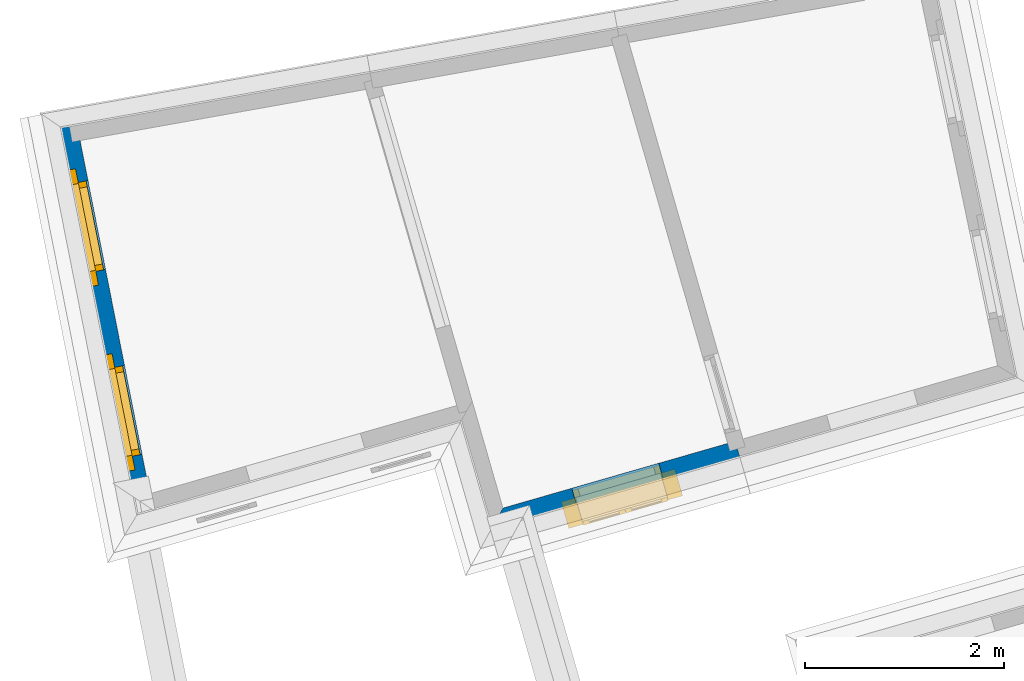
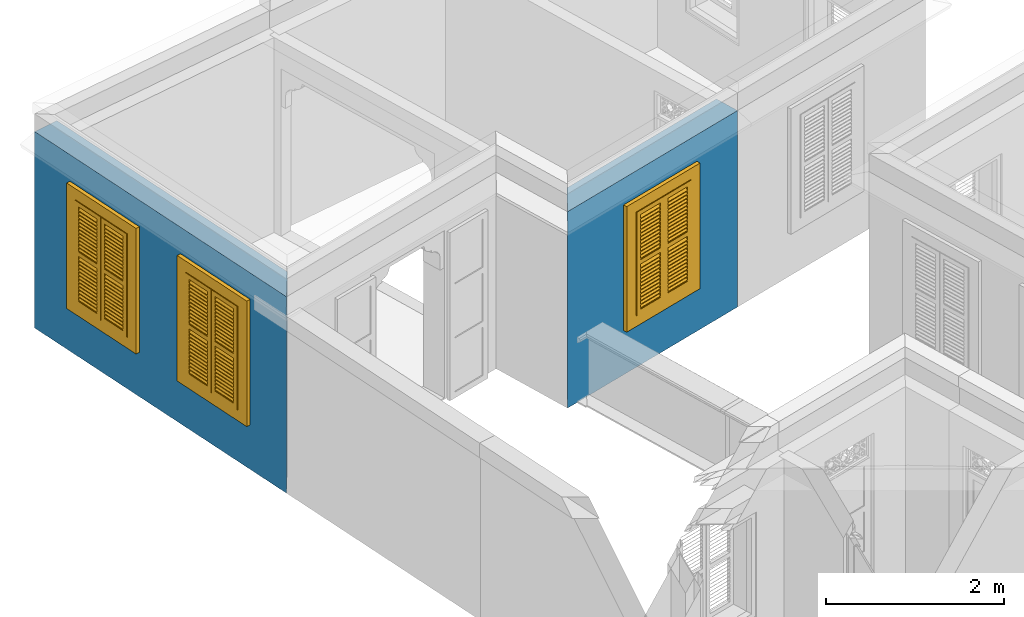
# One storey, part 15 of 22: 3 windows, 2 walls, 3 openings.
"""IFC4 building model written with IfcOpenShell, lengths in metres."""

from ifc_helpers import new_model, si_unit, frame, origin, origin_with_axes, place, context, subcontext, project, spatial, polyline, outline, extrude, faceted_brep, source, transform, mapped, material, layer, layer_set, layer_usage, type_object, type_shapes, element, fill, save


model = new_model("IFC4")

# Units and contexts
model_context = context("Model", 3, world=origin_with_axes())
body_context = subcontext(model_context, "Body", "Model", "MODEL_VIEW")
ifc_project = project(units=[si_unit("PLANEANGLEUNIT", "RADIAN"), si_unit("MASSUNIT", "GRAM", prefix="KILO"), si_unit("FORCEUNIT", "NEWTON", prefix="KILO"), si_unit("LENGTHUNIT", "METRE"), si_unit("AREAUNIT", "SQUARE_METRE"), si_unit("VOLUMEUNIT", "CUBIC_METRE")], contexts=[model_context, model_context])

# Site, building, storey
site_placement = place(None, origin_with_axes())
site = spatial("IfcSite", under=ifc_project, at=site_placement, Name="Site plot-9", CompositionType="ELEMENT")
building_placement = place(None, origin_with_axes())
building = spatial("IfcBuilding", under=site, at=building_placement, Name="Building plot-9", CompositionType="ELEMENT")
storey_placement = place(None, frame((0.0, 0.0, 2.85), z_axis=(0.0, 0.0, 1.0), x_axis=(1.0, 0.0, 0.0)))
storey = spatial("IfcBuildingStorey", under=building, at=storey_placement, Name="plot-9 1", CompositionType="ELEMENT", Elevation=2.85)

# Wall, openings, windows
ifc_material = material(Name="Masonry")
ifc_layer = layer(ifc_material, 0.33, ventilated=False)
ifc_layer_set = layer_set([ifc_layer], Name="exterior_0.08_0.25")
ifc_layer_usage = layer_usage(ifc_layer_set, "AXIS2", "POSITIVE", -0.25)
wall_type = type_object("IfcWallType", Name="exterior_0.08_0.25", PredefinedType="SOLIDWALL", material=ifc_layer_set)
wall_1_placement = place(storey_placement, frame((-23.0511228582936, 7.53920584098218, 0.0), z_axis=(0.0, 0.0, 1.0), x_axis=(0.1936752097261, -0.981065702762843, 0.0)))
wall_1 = element("IfcWall", 1, at=wall_1_placement, inside=storey, type_object=wall_type, material=ifc_layer_usage, Name="exterior", context=body_context, shape_type="SweptSolid", body=[
    extrude(outline(polyline([(-0.25, 0.0800000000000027), (-0.250000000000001, -0.25), (4.05798075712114, -0.250000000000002), (3.69867391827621, 0.080000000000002), (-0.25, 0.0800000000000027)])), origin_with_axes(), (0.0, 0.0, 1.0), 2.7),
])
opening_1_placement = place(wall_1_placement, frame((0.49144465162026, 0.0, 0.75)))
opening_1 = element("IfcOpeningElement", 2, at=opening_1_placement, cuts=wall_1, Name="My Opening", ObjectType="Opening", context=body_context, shape_type="SweptSolid", body=[
    extrude(outline(polyline([(0.0, -0.27), (0.91, -0.270000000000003), (0.91, 1.1), (5.55111512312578e-17, 1.1), (0.0, -0.27)])), origin_with_axes(), (0.0, 0.0, 1.0), 1.445),
])
opening_2_placement = place(wall_1_placement, frame((2.38433395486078, 0.0, 0.75)))
opening_2 = element("IfcOpeningElement", 3, at=opening_2_placement, cuts=wall_1, Name="My Opening", ObjectType="Opening", context=body_context, shape_type="SweptSolid", body=[
    extrude(outline(polyline([(0.0, -0.27), (0.909999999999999, -0.270000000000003), (0.91, 1.1), (0.0, 1.1), (0.0, -0.27)])), origin_with_axes(), (0.0, 0.0, 1.0), 1.445),
])
window_type = type_object("IfcWindowType", Name="shuttered_shorter", PartitioningType="DOUBLE_PANEL_HORIZONTAL", PredefinedType="NOTDEFINED")
shared_shape = source(origin(), body_context, "Body", "Brep", [
    faceted_brep([(0.393, 0.0, 0.622), (0.074, 0.0, 0.622), (0.074, 0.0, 0.632), (0.393, 0.0, 0.632), (0.074, -0.04, 0.592), (0.393, -0.04, 0.592), (0.393, -0.04, 0.582), (0.074, -0.04, 0.582), (0.517, 0.0, 0.682), (0.836, 0.0, 0.682), (0.836, 0.0, 0.672), (0.517, 0.0, 0.672), (0.517, -0.04, 0.642), (0.836, -0.04, 0.642), (0.836, -0.04, 0.632), (0.517, -0.04, 0.632), (0.517, 0.0, 0.632), (0.836, 0.0, 0.632), (0.836, 0.0, 0.622), (0.517, 0.0, 0.622), (0.517, -0.04, 0.592), (0.836, -0.04, 0.592), (0.836, -0.04, 0.582), (0.517, -0.04, 0.582), (0.517, 0.0, 0.232), (0.836, 0.0, 0.232), (0.836, 0.0, 0.222), (0.517, 0.0, 0.222), (0.517, -0.04, 0.192), (0.836, -0.04, 0.192), (0.836, -0.04, 0.182), (0.517, -0.04, 0.182), (0.517, 0.0, 0.532), (0.836, 0.0, 0.532), (0.836, 0.0, 0.522), (0.517, 0.0, 0.522), (0.517, -0.04, 0.492), (0.836, -0.04, 0.492), (0.836, -0.04, 0.482), (0.517, -0.04, 0.482), (0.517, 0.0, 0.482), (0.836, 0.0, 0.482), (0.836, 0.0, 0.472), (0.517, 0.0, 0.472), (0.517, -0.04, 0.442), (0.836, -0.04, 0.442), (0.836, -0.04, 0.432), (0.517, -0.04, 0.432), (0.517, 0.0, 0.582), (0.836, 0.0, 0.582), (0.836, 0.0, 0.572), (0.517, 0.0, 0.572), (0.517, -0.04, 0.542), (0.836, -0.04, 0.542), (0.836, -0.04, 0.532), (0.517, -0.04, 0.532), (0.517, 0.0, 0.182), (0.836, 0.0, 0.182), (0.836, 0.0, 0.172), (0.517, 0.0, 0.172), (0.517, -0.04, 0.142), (0.836, -0.04, 0.142), (0.836, -0.04, 0.132), (0.517, -0.04, 0.132), (0.517, 0.0, 0.382), (0.836, 0.0, 0.382), (0.836, 0.0, 0.372), (0.517, 0.0, 0.372), (0.517, -0.04, 0.342), (0.836, -0.04, 0.342), (0.836, -0.04, 0.332), (0.517, -0.04, 0.332), (0.517, 0.0, 0.432), (0.836, 0.0, 0.432), (0.836, 0.0, 0.422), (0.517, 0.0, 0.422), (0.517, -0.04, 0.392), (0.836, -0.04, 0.392), (0.836, -0.04, 0.382), (0.517, -0.04, 0.382), (0.517, 0.0, 0.132), (0.836, 0.0, 0.132), (0.836, 0.0, 0.122), (0.517, 0.0, 0.122), (0.517, -0.04, 0.092), (0.836, -0.04, 0.092), (0.836, -0.04, 0.082), (0.517, -0.04, 0.082), (0.517, 0.0, 0.282), (0.836, 0.0, 0.282), (0.836, 0.0, 0.272), (0.517, 0.0, 0.272), (0.517, -0.04, 0.242), (0.836, -0.04, 0.242), (0.836, -0.04, 0.232), (0.517, -0.04, 0.232), (0.517, 0.0, 0.332), (0.836, 0.0, 0.332), (0.836, 0.0, 0.322), (0.517, 0.0, 0.322), (0.517, -0.04, 0.292), (0.836, -0.04, 0.292), (0.836, -0.04, 0.282), (0.517, -0.04, 0.282), (0.517, 0.0, 1.362667), (0.836, 0.0, 1.362667), (0.836, 0.0, 1.352667), (0.517, 0.0, 1.352667), (0.517, -0.04, 1.322667), (0.836, -0.04, 1.322667), (0.836, -0.04, 1.312667), (0.517, -0.04, 1.312667), (0.517, 0.0, 1.312667), (0.836, 0.0, 1.312667), (0.836, 0.0, 1.302667), (0.517, 0.0, 1.302667), (0.517, -0.04, 1.272667), (0.836, -0.04, 1.272667), (0.836, -0.04, 1.262667), (0.517, -0.04, 1.262667), (0.517, 0.0, 0.912667), (0.836, 0.0, 0.912667), (0.836, 0.0, 0.902667), (0.517, 0.0, 0.902667), (0.517, -0.04, 0.872667), (0.836, -0.04, 0.872667), (0.836, -0.04, 0.862667), (0.517, -0.04, 0.862667), (0.517, 0.0, 1.212667), (0.836, 0.0, 1.212667), (0.836, 0.0, 1.202667), (0.517, 0.0, 1.202667), (0.517, -0.04, 1.172667), (0.836, -0.04, 1.172667), (0.836, -0.04, 1.162667), (0.517, -0.04, 1.162667), (0.517, 0.0, 1.162667), (0.836, 0.0, 1.162667), (0.836, 0.0, 1.152667), (0.517, 0.0, 1.152667), (0.517, -0.04, 1.122667), (0.836, -0.04, 1.122667), (0.836, -0.04, 1.112667), (0.517, -0.04, 1.112667), (0.517, 0.0, 1.262667), (0.836, 0.0, 1.262667), (0.836, 0.0, 1.252667), (0.517, 0.0, 1.252667), (0.517, -0.04, 1.222667), (0.836, -0.04, 1.222667), (0.836, -0.04, 1.212667), (0.517, -0.04, 1.212667), (0.517, 0.0, 0.862667), (0.836, 0.0, 0.862667), (0.836, 0.0, 0.852667), (0.517, 0.0, 0.852667), (0.517, -0.04, 0.822667), (0.836, -0.04, 0.822667), (0.836, -0.04, 0.812667), (0.517, -0.04, 0.812667), (0.517, 0.0, 1.062667), (0.836, 0.0, 1.062667), (0.836, 0.0, 1.052667), (0.517, 0.0, 1.052667), (0.517, -0.04, 1.022667), (0.836, -0.04, 1.022667), (0.836, -0.04, 1.012667), (0.517, -0.04, 1.012667), (0.517, 0.0, 1.112667), (0.836, 0.0, 1.112667), (0.836, 0.0, 1.102667), (0.517, 0.0, 1.102667), (0.517, -0.04, 1.072667), (0.836, -0.04, 1.072667), (0.836, -0.04, 1.062667), (0.517, -0.04, 1.062667), (0.517, 0.0, 0.812667), (0.836, 0.0, 0.812667), (0.836, 0.0, 0.802667), (0.517, 0.0, 0.802667), (0.517, -0.04, 0.772667), (0.836, -0.04, 0.772667), (0.836, -0.04, 0.762667), (0.517, -0.04, 0.762667), (0.517, 0.0, 0.962667), (0.836, 0.0, 0.962667), (0.836, 0.0, 0.952667), (0.517, 0.0, 0.952667), (0.517, -0.04, 0.922667), (0.836, -0.04, 0.922667), (0.836, -0.04, 0.912667), (0.517, -0.04, 0.912667), (0.517, 0.0, 1.012667), (0.836, 0.0, 1.012667), (0.836, 0.0, 1.002667), (0.517, 0.0, 1.002667), (0.517, -0.04, 0.972667), (0.836, -0.04, 0.972667), (0.836, -0.04, 0.962667), (0.517, -0.04, 0.962667), (0.074, 0.0, 0.682), (0.393, 0.0, 0.682), (0.393, 0.0, 0.672), (0.074, 0.0, 0.672), (0.074, -0.04, 0.642), (0.393, -0.04, 0.642), (0.393, -0.04, 0.632), (0.074, -0.04, 0.632), (0.074, 0.0, 0.232), (0.393, 0.0, 0.232), (0.393, 0.0, 0.222), (0.074, 0.0, 0.222), (0.074, -0.04, 0.192), (0.393, -0.04, 0.192), (0.393, -0.04, 0.182), (0.074, -0.04, 0.182), (0.074, 0.0, 0.532), (0.393, 0.0, 0.532), (0.393, 0.0, 0.522), (0.074, 0.0, 0.522), (0.074, -0.04, 0.492), (0.393, -0.04, 0.492), (0.393, -0.04, 0.482), (0.074, -0.04, 0.482), (0.074, 0.0, 0.482), (0.393, 0.0, 0.482), (0.393, 0.0, 0.472), (0.074, 0.0, 0.472), (0.074, -0.04, 0.442), (0.393, -0.04, 0.442), (0.393, -0.04, 0.432), (0.074, -0.04, 0.432), (0.074, 0.0, 0.582), (0.393, 0.0, 0.582), (0.393, 0.0, 0.572), (0.074, 0.0, 0.572), (0.074, -0.04, 0.542), (0.393, -0.04, 0.542), (0.393, -0.04, 0.532), (0.074, -0.04, 0.532), (0.074, 0.0, 0.182), (0.393, 0.0, 0.182), (0.393, 0.0, 0.172), (0.074, 0.0, 0.172), (0.074, -0.04, 0.142), (0.393, -0.04, 0.142), (0.393, -0.04, 0.132), (0.074, -0.04, 0.132), (0.074, 0.0, 0.382), (0.393, 0.0, 0.382), (0.393, 0.0, 0.372), (0.074, 0.0, 0.372), (0.074, -0.04, 0.342), (0.393, -0.04, 0.342), (0.393, -0.04, 0.332), (0.074, -0.04, 0.332), (0.074, 0.0, 0.432), (0.393, 0.0, 0.432), (0.393, 0.0, 0.422), (0.074, 0.0, 0.422), (0.074, -0.04, 0.392), (0.393, -0.04, 0.392), (0.393, -0.04, 0.382), (0.074, -0.04, 0.382), (0.074, 0.0, 0.132), (0.393, 0.0, 0.132), (0.393, 0.0, 0.122), (0.074, 0.0, 0.122), (0.074, -0.04, 0.092), (0.393, -0.04, 0.092), (0.393, -0.04, 0.082), (0.074, -0.04, 0.082), (0.074, 0.0, 0.282), (0.393, 0.0, 0.282), (0.393, 0.0, 0.272), (0.074, 0.0, 0.272), (0.074, -0.04, 0.242), (0.393, -0.04, 0.242), (0.393, -0.04, 0.232), (0.074, -0.04, 0.232), (0.074, 0.0, 0.332), (0.393, 0.0, 0.332), (0.393, 0.0, 0.322), (0.074, 0.0, 0.322), (0.074, -0.04, 0.292), (0.393, -0.04, 0.292), (0.393, -0.04, 0.282), (0.074, -0.04, 0.282), (0.074, 0.0, 1.362667), (0.393, 0.0, 1.362667), (0.393, 0.0, 1.352667), (0.074, 0.0, 1.352667), (0.074, -0.04, 1.322667), (0.393, -0.04, 1.322667), (0.393, -0.04, 1.312667), (0.074, -0.04, 1.312667), (0.074, 0.0, 1.312667), (0.393, 0.0, 1.312667), (0.393, 0.0, 1.302667), (0.074, 0.0, 1.302667), (0.074, -0.04, 1.272667), (0.393, -0.04, 1.272667), (0.393, -0.04, 1.262667), (0.074, -0.04, 1.262667), (0.074, 0.0, 0.912667), (0.393, 0.0, 0.912667), (0.393, 0.0, 0.902667), (0.074, 0.0, 0.902667), (0.074, -0.04, 0.872667), (0.393, -0.04, 0.872667), (0.393, -0.04, 0.862667), (0.074, -0.04, 0.862667), (0.074, 0.0, 1.212667), (0.393, 0.0, 1.212667), (0.393, 0.0, 1.202667), (0.074, 0.0, 1.202667), (0.074, -0.04, 1.172667), (0.393, -0.04, 1.172667), (0.393, -0.04, 1.162667), (0.074, -0.04, 1.162667), (0.074, 0.0, 1.162667), (0.393, 0.0, 1.162667), (0.393, 0.0, 1.152667), (0.074, 0.0, 1.152667), (0.074, -0.04, 1.122667), (0.393, -0.04, 1.122667), (0.393, -0.04, 1.112667), (0.074, -0.04, 1.112667), (0.074, 0.0, 1.262667), (0.393, 0.0, 1.262667), (0.393, 0.0, 1.252667), (0.074, 0.0, 1.252667), (0.074, -0.04, 1.222667), (0.393, -0.04, 1.222667), (0.393, -0.04, 1.212667), (0.074, -0.04, 1.212667), (0.074, 0.0, 0.862667), (0.393, 0.0, 0.862667), (0.393, 0.0, 0.852667), (0.074, 0.0, 0.852667), (0.074, -0.04, 0.822667), (0.393, -0.04, 0.822667), (0.393, -0.04, 0.812667), (0.074, -0.04, 0.812667), (0.074, 0.0, 1.062667), (0.393, 0.0, 1.062667), (0.393, 0.0, 1.052667), (0.074, 0.0, 1.052667), (0.074, -0.04, 1.022667), (0.393, -0.04, 1.022667), (0.393, -0.04, 1.012667), (0.074, -0.04, 1.012667), (0.074, 0.0, 1.112667), (0.393, 0.0, 1.112667), (0.393, 0.0, 1.102667), (0.074, 0.0, 1.102667), (0.074, -0.04, 1.072667), (0.393, -0.04, 1.072667), (0.393, -0.04, 1.062667), (0.074, -0.04, 1.062667), (0.074, 0.0, 0.812667), (0.393, 0.0, 0.812667), (0.393, 0.0, 0.802667), (0.074, 0.0, 0.802667), (0.074, -0.04, 0.772667), (0.393, -0.04, 0.772667), (0.393, -0.04, 0.762667), (0.074, -0.04, 0.762667), (0.074, 0.0, 0.962667), (0.393, 0.0, 0.962667), (0.393, 0.0, 0.952667), (0.074, 0.0, 0.952667), (0.074, -0.04, 0.922667), (0.393, -0.04, 0.922667), (0.393, -0.04, 0.912667), (0.074, -0.04, 0.912667), (0.074, 0.0, 1.012667), (0.393, 0.0, 1.012667), (0.393, 0.0, 1.002667), (0.074, 0.0, 1.002667), (0.074, -0.04, 0.972667), (0.393, -0.04, 0.972667), (0.393, -0.04, 0.962667), (0.074, -0.04, 0.962667), (0.517, -0.04, 0.072), (0.457, -0.04, 0.012), (0.896, -0.04, 0.012), (0.836, -0.04, 0.072), (0.457, -0.04, 0.692667), (0.517, -0.04, 0.692667), (0.457, 0.0, 0.012), (0.896, 0.0, 0.012), (0.836, -0.04, 0.692667), (0.896, -0.04, 0.692667), (0.836, 0.0, 0.072), (0.517, 0.0, 0.072), (0.457, 0.0, 0.692667), (0.517, 0.0, 0.692667), (0.517, -0.04, 0.752666), (0.457, -0.04, 0.752666), (0.896, 0.0, 0.692667), (0.836, 0.0, 0.692667), (0.836, -0.04, 0.752666), (0.896, -0.04, 0.752666), (0.457, 0.0, 0.752666), (0.457, -0.04, 1.433333), (0.517, -0.04, 1.373333), (0.896, 0.0, 0.752666), (0.836, -0.04, 1.373333), (0.896, -0.04, 1.433333), (0.457, 0.0, 1.433333), (0.517, 0.0, 0.752666), (0.836, 0.0, 0.752666), (0.517, 0.0, 1.373333), (0.896, 0.0, 1.433333), (0.836, 0.0, 1.373333), (0.074, -0.04, 0.072), (0.014, -0.04, 0.012), (0.453, -0.04, 0.012), (0.393, -0.04, 0.072), (0.014, -0.04, 0.692667), (0.074, -0.04, 0.692667), (0.014, 0.0, 0.012), (0.453, 0.0, 0.012), (0.393, -0.04, 0.692667), (0.453, -0.04, 0.692667), (0.393, 0.0, 0.072), (0.074, 0.0, 0.072), (0.014, 0.0, 0.692667), (0.074, 0.0, 0.692667), (0.074, -0.04, 0.752666), (0.014, -0.04, 0.752666), (0.453, 0.0, 0.692667), (0.393, 0.0, 0.692667), (0.393, -0.04, 0.752666), (0.453, -0.04, 0.752666), (0.014, 0.0, 0.752666), (0.014, -0.04, 1.433333), (0.074, -0.04, 1.373333), (0.453, 0.0, 0.752666), (0.393, -0.04, 1.373333), (0.453, -0.04, 1.433333), (0.014, 0.0, 1.433333), (0.074, 0.0, 0.752666), (0.393, 0.0, 0.752666), (0.074, 0.0, 1.373333), (0.453, 0.0, 1.433333), (0.393, 0.0, 1.373333), (0.0, 0.33, 1.445), (0.91, 0.33, 1.445), (0.85, 0.33, 1.385), (0.06, 0.33, 1.385), (0.91, 0.25, 1.445), (0.0, 0.25, 1.445), (0.91, 0.25, 1.445), (0.85, 0.33, 0.06), (0.91, 0.33, 0.0), (0.85, 0.25, 1.385), (0.06, 0.25, 1.385), (0.0, 0.33, 0.0), (0.06, 0.33, 0.06), (0.0, 0.25, 0.0), (0.91, 0.25, 0.0), (0.85, 0.25, 0.06), (0.06, 0.25, 0.06), (1.05, 0.25, 1.585), (-0.14, 0.25, 1.585), (-0.14, -0.03, 1.585), (1.05, -0.03, 1.585), (0.9, -0.03, 1.435), (0.01, -0.03, 1.435), (0.01, 0.25, 1.435), (0.9, 0.25, 1.435), (0.9, 0.25, 0.01), (0.9, -0.03, 0.01), (1.05, -0.03, -0.14), (1.05, 0.25, -0.14), (0.01, -0.03, 0.01), (0.01, 0.25, 0.01), (-0.14, -0.03, -0.14), (-0.14, 0.25, -0.14)], [[[0, 1, 2, 3]], [[4, 5, 3, 2]], [[5, 6, 0, 3]], [[1, 0, 6, 7]], [[2, 1, 7, 4]], [[5, 4, 7, 6]], [[8, 9, 10, 11]], [[12, 13, 9, 8]], [[13, 14, 10, 9]], [[14, 15, 11, 10]], [[15, 12, 8, 11]], [[13, 12, 15, 14]], [[16, 17, 18, 19]], [[20, 21, 17, 16]], [[21, 22, 18, 17]], [[22, 23, 19, 18]], [[23, 20, 16, 19]], [[21, 20, 23, 22]], [[24, 25, 26, 27]], [[28, 29, 25, 24]], [[29, 30, 26, 25]], [[30, 31, 27, 26]], [[31, 28, 24, 27]], [[29, 28, 31, 30]], [[32, 33, 34, 35]], [[36, 37, 33, 32]], [[37, 38, 34, 33]], [[38, 39, 35, 34]], [[39, 36, 32, 35]], [[37, 36, 39, 38]], [[40, 41, 42, 43]], [[44, 45, 41, 40]], [[45, 46, 42, 41]], [[46, 47, 43, 42]], [[47, 44, 40, 43]], [[45, 44, 47, 46]], [[48, 49, 50, 51]], [[52, 53, 49, 48]], [[53, 54, 50, 49]], [[54, 55, 51, 50]], [[55, 52, 48, 51]], [[53, 52, 55, 54]], [[56, 57, 58, 59]], [[60, 61, 57, 56]], [[61, 62, 58, 57]], [[62, 63, 59, 58]], [[63, 60, 56, 59]], [[61, 60, 63, 62]], [[64, 65, 66, 67]], [[68, 69, 65, 64]], [[69, 70, 66, 65]], [[70, 71, 67, 66]], [[71, 68, 64, 67]], [[69, 68, 71, 70]], [[72, 73, 74, 75]], [[76, 77, 73, 72]], [[77, 78, 74, 73]], [[78, 79, 75, 74]], [[79, 76, 72, 75]], [[77, 76, 79, 78]], [[80, 81, 82, 83]], [[84, 85, 81, 80]], [[85, 86, 82, 81]], [[86, 87, 83, 82]], [[87, 84, 80, 83]], [[85, 84, 87, 86]], [[88, 89, 90, 91]], [[92, 93, 89, 88]], [[93, 94, 90, 89]], [[94, 95, 91, 90]], [[95, 92, 88, 91]], [[93, 92, 95, 94]], [[96, 97, 98, 99]], [[100, 101, 97, 96]], [[101, 102, 98, 97]], [[102, 103, 99, 98]], [[103, 100, 96, 99]], [[101, 100, 103, 102]], [[104, 105, 106, 107]], [[108, 109, 105, 104]], [[109, 110, 106, 105]], [[110, 111, 107, 106]], [[111, 108, 104, 107]], [[109, 108, 111, 110]], [[112, 113, 114, 115]], [[116, 117, 113, 112]], [[117, 118, 114, 113]], [[118, 119, 115, 114]], [[119, 116, 112, 115]], [[117, 116, 119, 118]], [[120, 121, 122, 123]], [[124, 125, 121, 120]], [[125, 126, 122, 121]], [[126, 127, 123, 122]], [[127, 124, 120, 123]], [[125, 124, 127, 126]], [[128, 129, 130, 131]], [[132, 133, 129, 128]], [[133, 134, 130, 129]], [[134, 135, 131, 130]], [[135, 132, 128, 131]], [[133, 132, 135, 134]], [[136, 137, 138, 139]], [[140, 141, 137, 136]], [[141, 142, 138, 137]], [[142, 143, 139, 138]], [[139, 143, 140, 136]], [[141, 140, 143, 142]], [[144, 145, 146, 147]], [[148, 149, 145, 144]], [[149, 150, 146, 145]], [[150, 151, 147, 146]], [[151, 148, 144, 147]], [[149, 148, 151, 150]], [[152, 153, 154, 155]], [[156, 157, 153, 152]], [[157, 158, 154, 153]], [[158, 159, 155, 154]], [[159, 156, 152, 155]], [[157, 156, 159, 158]], [[160, 161, 162, 163]], [[164, 165, 161, 160]], [[165, 166, 162, 161]], [[166, 167, 163, 162]], [[167, 164, 160, 163]], [[165, 164, 167, 166]], [[168, 169, 170, 171]], [[172, 173, 169, 168]], [[173, 174, 170, 169]], [[174, 175, 171, 170]], [[175, 172, 168, 171]], [[173, 172, 175, 174]], [[176, 177, 178, 179]], [[180, 181, 177, 176]], [[181, 182, 178, 177]], [[182, 183, 179, 178]], [[183, 180, 176, 179]], [[181, 180, 183, 182]], [[184, 185, 186, 187]], [[188, 189, 185, 184]], [[189, 190, 186, 185]], [[190, 191, 187, 186]], [[191, 188, 184, 187]], [[189, 188, 191, 190]], [[192, 193, 194, 195]], [[196, 197, 193, 192]], [[197, 198, 194, 193]], [[198, 199, 195, 194]], [[199, 196, 192, 195]], [[197, 196, 199, 198]], [[200, 201, 202, 203]], [[204, 205, 201, 200]], [[205, 206, 202, 201]], [[206, 207, 203, 202]], [[207, 204, 200, 203]], [[205, 204, 207, 206]], [[208, 209, 210, 211]], [[212, 213, 209, 208]], [[213, 214, 210, 209]], [[214, 215, 211, 210]], [[215, 212, 208, 211]], [[213, 212, 215, 214]], [[216, 217, 218, 219]], [[220, 221, 217, 216]], [[221, 222, 218, 217]], [[222, 223, 219, 218]], [[223, 220, 216, 219]], [[221, 220, 223, 222]], [[224, 225, 226, 227]], [[228, 229, 225, 224]], [[229, 230, 226, 225]], [[230, 231, 227, 226]], [[231, 228, 224, 227]], [[229, 228, 231, 230]], [[232, 233, 234, 235]], [[236, 237, 233, 232]], [[237, 238, 234, 233]], [[238, 239, 235, 234]], [[239, 236, 232, 235]], [[237, 236, 239, 238]], [[240, 241, 242, 243]], [[244, 245, 241, 240]], [[245, 246, 242, 241]], [[246, 247, 243, 242]], [[247, 244, 240, 243]], [[245, 244, 247, 246]], [[248, 249, 250, 251]], [[252, 253, 249, 248]], [[253, 254, 250, 249]], [[254, 255, 251, 250]], [[255, 252, 248, 251]], [[253, 252, 255, 254]], [[256, 257, 258, 259]], [[260, 261, 257, 256]], [[261, 262, 258, 257]], [[262, 263, 259, 258]], [[263, 260, 256, 259]], [[261, 260, 263, 262]], [[264, 265, 266, 267]], [[268, 269, 265, 264]], [[269, 270, 266, 265]], [[270, 271, 267, 266]], [[271, 268, 264, 267]], [[269, 268, 271, 270]], [[272, 273, 274, 275]], [[276, 277, 273, 272]], [[277, 278, 274, 273]], [[278, 279, 275, 274]], [[279, 276, 272, 275]], [[277, 276, 279, 278]], [[280, 281, 282, 283]], [[284, 285, 281, 280]], [[285, 286, 282, 281]], [[286, 287, 283, 282]], [[287, 284, 280, 283]], [[285, 284, 287, 286]], [[288, 289, 290, 291]], [[292, 293, 289, 288]], [[293, 294, 290, 289]], [[294, 295, 291, 290]], [[295, 292, 288, 291]], [[293, 292, 295, 294]], [[296, 297, 298, 299]], [[300, 301, 297, 296]], [[301, 302, 298, 297]], [[302, 303, 299, 298]], [[303, 300, 296, 299]], [[301, 300, 303, 302]], [[304, 305, 306, 307]], [[308, 309, 305, 304]], [[309, 310, 306, 305]], [[310, 311, 307, 306]], [[311, 308, 304, 307]], [[309, 308, 311, 310]], [[312, 313, 314, 315]], [[316, 317, 313, 312]], [[317, 318, 314, 313]], [[318, 319, 315, 314]], [[319, 316, 312, 315]], [[317, 316, 319, 318]], [[320, 321, 322, 323]], [[324, 325, 321, 320]], [[325, 326, 322, 321]], [[326, 327, 323, 322]], [[327, 324, 320, 323]], [[325, 324, 327, 326]], [[328, 329, 330, 331]], [[332, 333, 329, 328]], [[333, 334, 330, 329]], [[334, 335, 331, 330]], [[335, 332, 328, 331]], [[333, 332, 335, 334]], [[336, 337, 338, 339]], [[340, 341, 337, 336]], [[341, 342, 338, 337]], [[342, 343, 339, 338]], [[343, 340, 336, 339]], [[341, 340, 343, 342]], [[344, 345, 346, 347]], [[348, 349, 345, 344]], [[349, 350, 346, 345]], [[350, 351, 347, 346]], [[351, 348, 344, 347]], [[349, 348, 351, 350]], [[352, 353, 354, 355]], [[356, 357, 353, 352]], [[357, 358, 354, 353]], [[358, 359, 355, 354]], [[359, 356, 352, 355]], [[357, 356, 359, 358]], [[360, 361, 362, 363]], [[364, 365, 361, 360]], [[365, 366, 362, 361]], [[366, 367, 363, 362]], [[367, 364, 360, 363]], [[365, 364, 367, 366]], [[368, 369, 370, 371]], [[372, 373, 369, 368]], [[373, 374, 370, 369]], [[374, 375, 371, 370]], [[375, 372, 368, 371]], [[373, 372, 375, 374]], [[376, 377, 378, 379]], [[380, 381, 377, 376]], [[381, 382, 378, 377]], [[382, 383, 379, 378]], [[383, 380, 376, 379]], [[381, 380, 383, 382]], [[384, 385, 386, 387]], [[388, 385, 384, 389]], [[390, 391, 386, 385]], [[392, 387, 386, 393]], [[384, 387, 394, 395]], [[390, 385, 388, 396]], [[389, 384, 395, 397]], [[389, 398, 399, 388]], [[390, 395, 394, 391]], [[400, 393, 386, 391]], [[387, 392, 401, 394]], [[402, 392, 393, 403]], [[396, 388, 399, 404]], [[390, 396, 397, 395]], [[392, 389, 397, 401]], [[398, 389, 392, 402]], [[405, 399, 398, 406]], [[394, 401, 400, 391]], [[407, 403, 393, 400]], [[408, 402, 403, 409]], [[404, 399, 405, 410]], [[411, 397, 396, 404]], [[397, 411, 412, 401]], [[398, 402, 412, 411]], [[406, 398, 411, 413]], [[405, 406, 408, 409]], [[401, 412, 407, 400]], [[414, 409, 403, 407]], [[402, 408, 415, 412]], [[405, 409, 414, 410]], [[404, 410, 413, 411]], [[408, 406, 413, 415]], [[412, 415, 414, 407]], [[413, 410, 414, 415]], [[416, 417, 418, 419]], [[420, 417, 416, 421]], [[422, 423, 418, 417]], [[424, 419, 418, 425]], [[416, 419, 426, 427]], [[422, 417, 420, 428]], [[421, 416, 427, 429]], [[421, 430, 431, 420]], [[422, 427, 426, 423]], [[432, 425, 418, 423]], [[419, 424, 433, 426]], [[434, 424, 425, 435]], [[428, 420, 431, 436]], [[422, 428, 429, 427]], [[424, 421, 429, 433]], [[430, 421, 424, 434]], [[437, 431, 430, 438]], [[426, 433, 432, 423]], [[439, 435, 425, 432]], [[440, 434, 435, 441]], [[436, 431, 437, 442]], [[443, 429, 428, 436]], [[429, 443, 444, 433]], [[430, 434, 444, 443]], [[438, 430, 443, 445]], [[437, 438, 440, 441]], [[433, 444, 439, 432]], [[446, 441, 435, 439]], [[434, 440, 447, 444]], [[437, 441, 446, 442]], [[436, 442, 445, 443]], [[440, 438, 445, 447]], [[444, 447, 446, 439]], [[445, 442, 446, 447]], [[448, 449, 450, 451]], [[452, 449, 448]], [[448, 453, 454]], [[448, 454, 452]], [[455, 450, 449, 456]], [[451, 450, 457, 458]], [[459, 448, 451, 460]], [[448, 459, 461, 453]], [[454, 453, 458, 457]], [[462, 452, 454]], [[454, 457, 463]], [[454, 463, 462]], [[456, 449, 452, 462]], [[450, 455, 463, 457]], [[456, 459, 460, 455]], [[460, 451, 458, 464]], [[459, 456, 462, 461]], [[464, 458, 453, 461]], [[461, 462, 463, 464]], [[455, 460, 464, 463]], [[465, 466, 467, 468]], [[469, 470, 471, 472]], [[473, 474, 469, 472]], [[465, 468, 475, 476]], [[470, 477, 478, 471]], [[474, 473, 478, 477]], [[474, 477, 479, 475]], [[470, 467, 479, 477]], [[470, 469, 468, 467]], [[474, 475, 468, 469]], [[471, 478, 480, 466]], [[473, 472, 465, 476]], [[473, 476, 480, 478]], [[466, 465, 472, 471]], [[480, 476, 475, 479]], [[480, 479, 467, 466]]]),
])
type_shapes(window_type, [shared_shape])
window_1_placement = place(storey_placement, frame((-23.2208299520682, 7.00477404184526, 0.75), z_axis=(0.0, 0.0, 1.0), x_axis=(0.176244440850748, -0.892769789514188, 0.0)))
window_1 = element("IfcWindow", 4, at=window_1_placement, inside=storey, type_object=window_type, Name="circulation outside window", OverallHeight=1.445, OverallWidth=0.91, context=body_context, shape_type="MappedRepresentation", body=[
    mapped(shared_shape, transform((0.0, 0.0, 0.0), scale=1.0)),
])
fill(opening_1, window_1)
window_2_placement = place(storey_placement, frame((-22.8542242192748, 5.14772526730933, 0.75), z_axis=(0.0, 0.0, 1.0), x_axis=(0.176244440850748, -0.892769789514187, 0.0)))
window_2 = element("IfcWindow", 5, at=window_2_placement, inside=storey, type_object=window_type, Name="circulation outside window", OverallHeight=1.445, OverallWidth=0.91, context=body_context, shape_type="MappedRepresentation", body=[
    mapped(shared_shape, transform((0.0, 0.0, 0.0), scale=1.0)),
])
fill(opening_2, window_2)

# Wall, opening, window
wall_2_placement = place(storey_placement, frame((-18.7649181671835, 3.68360629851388, 0.0), z_axis=(0.0, 0.0, 1.0), x_axis=(0.961007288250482, 0.276523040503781, 0.0)))
wall_2 = element("IfcWall", 6, at=wall_2_placement, inside=storey, type_object=wall_type, material=ifc_layer_usage, Name="exterior", context=body_context, shape_type="SweptSolid", body=[
    extrude(outline(polyline([(0.0799999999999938, 0.0800000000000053), (-0.249999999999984, -0.250000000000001), (2.50864189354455, -0.25), (2.50864189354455, 0.0800000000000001), (0.0799999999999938, 0.0800000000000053)])), origin_with_axes(), (0.0, 0.0, 1.0), 2.7),
])
opening_3_placement = place(wall_2_placement, frame((0.799320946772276, 0.0, 0.75)))
opening_3 = element("IfcOpeningElement", 7, at=opening_3_placement, cuts=wall_2, Name="My Opening", ObjectType="Opening", context=body_context, shape_type="SweptSolid", body=[
    extrude(outline(polyline([(0.0, -0.27), (0.909999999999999, -0.27), (0.91, 1.1), (6.66133814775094e-16, 1.1), (0.0, -0.27)])), origin_with_axes(), (0.0, 0.0, 1.0), 1.445),
])
window_3_placement = place(storey_placement, frame((-17.922103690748, 3.64516498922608, 0.75), z_axis=(0.0, 0.0, 1.0), x_axis=(0.874516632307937, 0.251635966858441, 0.0)))
window_3 = element("IfcWindow", 8, at=window_3_placement, inside=storey, type_object=window_type, Name="circulation outside window", OverallHeight=1.445, OverallWidth=0.91, context=body_context, shape_type="MappedRepresentation", body=[
    mapped(shared_shape, transform((0.0, 0.0, 0.0), scale=1.0)),
])
fill(opening_3, window_3)

save(model, "model.ifc")
